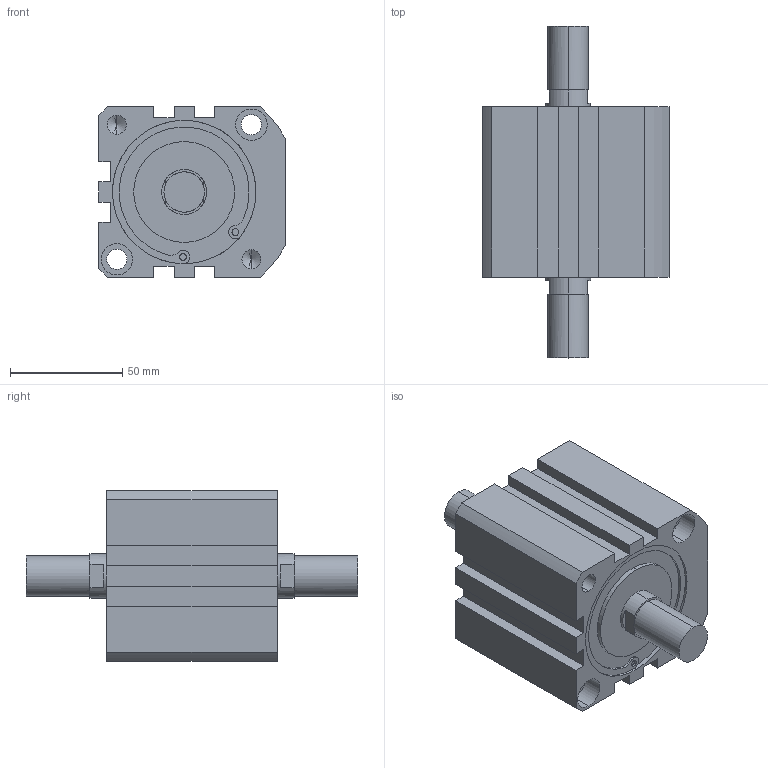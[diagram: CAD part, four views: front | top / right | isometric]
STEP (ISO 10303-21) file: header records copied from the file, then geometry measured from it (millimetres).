
FILE_DESCRIPTION (( 'STEP AP203' ), '1' );
FILE_NAME ('XG#M7-63D-10.STEP', '2016-05-24T02:25:16', ( '' ), ( '' ), 'SwSTEP 2.0', 'SolidWorks 2014', '' );
FILE_SCHEMA (( 'CONFIG_CONTROL_DESIGN' ));
Length unit declared in the file: millimetre
Products named in the file (1): XG#M7-63D-10
Bounding box: 83 x 148 x 76 mm (x, y, z)
Volume: 438492.8 mm3; surface area: 53041 mm2
Topology: 1 solids, 1 shells, 149 faces, 373 edges, 236 vertices
Faces by surface type: cylinder 69, plane 64, cone 16
Entity records: 4494 total; most frequent: DIRECTION 827, CARTESIAN_POINT 747, ORIENTED_EDGE 722, EDGE_CURVE 361, AXIS2_PLACEMENT_3D 316, VERTEX_POINT 236, VECTOR 195, LINE 195
